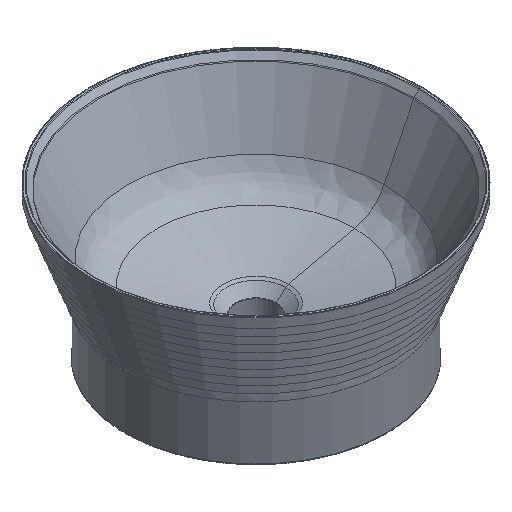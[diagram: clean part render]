
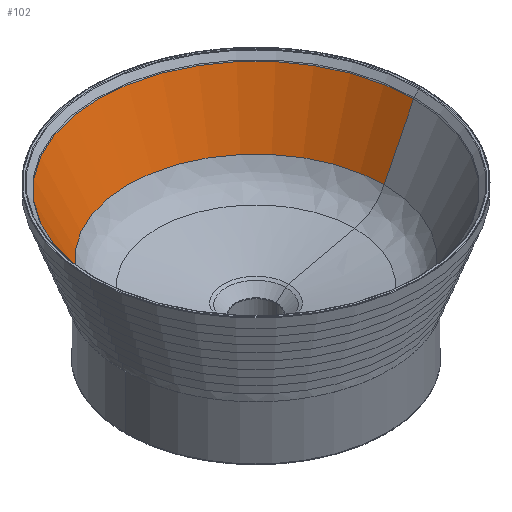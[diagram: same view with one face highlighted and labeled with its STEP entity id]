
A CAD part, isometric view. The second image highlights one B-rep face of the part: STEP entity #102.
In plain terms, the highlighted free-form (B-spline) face has degree [1, 2] with [2, 5] control points.
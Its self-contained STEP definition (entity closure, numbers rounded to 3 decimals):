
#102=ADVANCED_FACE('',(#206),#1494,.T.);
#206=FACE_OUTER_BOUND('',#310,.T.);
#310=EDGE_LOOP('',(#672,#673,#674,#675));
#672=ORIENTED_EDGE('',*,*,#917,.T.);
#673=ORIENTED_EDGE('',*,*,#830,.F.);
#674=ORIENTED_EDGE('',*,*,#829,.F.);
#675=ORIENTED_EDGE('',*,*,#840,.F.);
#829=EDGE_CURVE('',#1300,#1339,#960,.T.);
#830=EDGE_CURVE('',#1339,#1383,#1078,.T.);
#840=EDGE_CURVE('',#1344,#1300,#1087,.T.);
#917=EDGE_CURVE('',#1344,#1383,#969,.T.);
#960=B_SPLINE_CURVE_WITH_KNOTS('',1,(#3116,#3117),.UNSPECIFIED.,.F.,.F.,
(2,2),(188.016,223.205),.UNSPECIFIED.);
#969=B_SPLINE_CURVE_WITH_KNOTS('',1,(#3372,#3373),.UNSPECIFIED.,.F.,.F.,
(2,2),(188.016,223.205),.UNSPECIFIED.);
#1078=TRIMMED_CURVE($,#1214,(#3119),(#3120),.T.,.CARTESIAN.);
#1087=TRIMMED_CURVE($,#1223,(#3149),(#3150),.T.,.CARTESIAN.);
#1214=CIRCLE('',#1692,180.882);
#1223=CIRCLE('',#1701,147.043);
#1300=VERTEX_POINT('',#2784);
#1339=VERTEX_POINT('',#2823);
#1344=VERTEX_POINT('',#2828);
#1383=VERTEX_POINT('',#2867);
#1494=(
BOUNDED_SURFACE()
B_SPLINE_SURFACE(1,2,((#2755,#2756,#2757,#2758,#2759),(#2760,#2761,#2762,
#2763,#2764)),.UNSPECIFIED.,.F.,.F.,.F.)
B_SPLINE_SURFACE_WITH_KNOTS((2,2),(3,2,3),(188.016,223.205),
(568.257,852.385,1136.513),.UNSPECIFIED.)
GEOMETRIC_REPRESENTATION_ITEM()
RATIONAL_B_SPLINE_SURFACE(((1.,0.707,1.,0.707,1.),
(1.,0.707,1.,0.707,1.)))
REPRESENTATION_ITEM('')
SURFACE()
);
#1692=AXIS2_PLACEMENT_3D($,#3118,#1939,#1940);
#1701=AXIS2_PLACEMENT_3D($,#3148,#1957,#1958);
#1939=DIRECTION('',(0.,0.,-1.));
#1940=DIRECTION('',(-1.,0.,0.));
#1957=DIRECTION('',(0.,0.,1.));
#1958=DIRECTION('',(1.,0.,0.));
#2755=CARTESIAN_POINT('',(-25084.664,36334.449,-2000.968));
#2756=CARTESIAN_POINT('',(-25084.664,36481.492,-2000.968));
#2757=CARTESIAN_POINT('',(-25231.707,36481.492,-2000.968));
#2758=CARTESIAN_POINT('',(-25378.75,36481.492,-2000.968));
#2759=CARTESIAN_POINT('',(-25378.75,36334.449,-2000.968));
#2760=CARTESIAN_POINT('',(-25050.825,36334.449,-1932.513));
#2761=CARTESIAN_POINT('',(-25050.825,36515.33,-1932.513));
#2762=CARTESIAN_POINT('',(-25231.707,36515.33,-1932.513));
#2763=CARTESIAN_POINT('',(-25412.588,36515.33,-1932.513));
#2764=CARTESIAN_POINT('',(-25412.588,36334.449,-1932.513));
#2784=CARTESIAN_POINT('',(-25378.75,36334.449,-2000.968));
#2823=CARTESIAN_POINT('',(-25412.588,36334.449,-1932.513));
#2828=CARTESIAN_POINT('',(-25084.664,36334.449,-2000.968));
#2867=CARTESIAN_POINT('',(-25050.825,36334.449,-1932.513));
#3116=CARTESIAN_POINT('',(-25378.75,36334.449,-2000.968));
#3117=CARTESIAN_POINT('',(-25412.588,36334.449,-1932.513));
#3118=CARTESIAN_POINT('',(-25231.707,36334.449,-1932.513));
#3119=CARTESIAN_POINT('',(-25412.588,36334.449,-1932.513));
#3120=CARTESIAN_POINT('',(-25050.825,36334.449,-1932.513));
#3148=CARTESIAN_POINT('',(-25231.707,36334.449,-2000.968));
#3149=CARTESIAN_POINT('',(-25084.664,36334.449,-2000.968));
#3150=CARTESIAN_POINT('',(-25378.75,36334.449,-2000.968));
#3372=CARTESIAN_POINT('',(-25084.664,36334.449,-2000.968));
#3373=CARTESIAN_POINT('',(-25050.825,36334.449,-1932.513));
